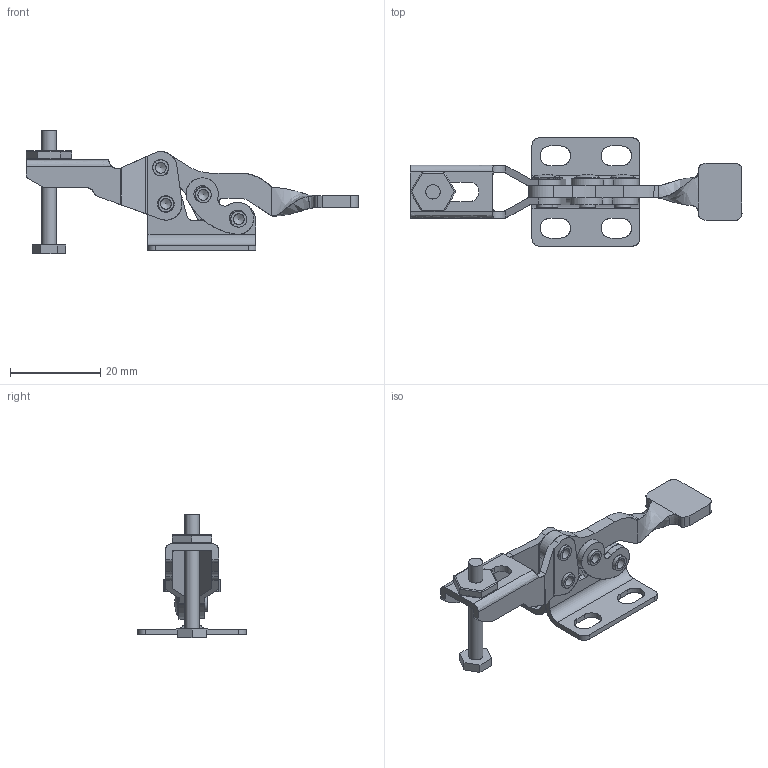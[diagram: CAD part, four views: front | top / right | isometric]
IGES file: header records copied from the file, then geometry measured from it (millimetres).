
Global section: file name: C:\T&M Tech\Carbide Tech\Work\100 series\h-101\h-101.igs; native system: Unigraphics Version X V2.0; preprocessor: Unigraphics NX IGES V2.0; date: 20041216.110421; units: inch
Bounding box: 73.48 x 23.94 x 27.38 mm (x, y, z)
Surface area: 6335 mm2 (no closed solid volume)
Topology: 0 solids, 0 shells, 246 faces, 3068 edges, 3031 vertices
Faces by surface type: revolution 128, extrusion 108, bspline 8, offset 2
